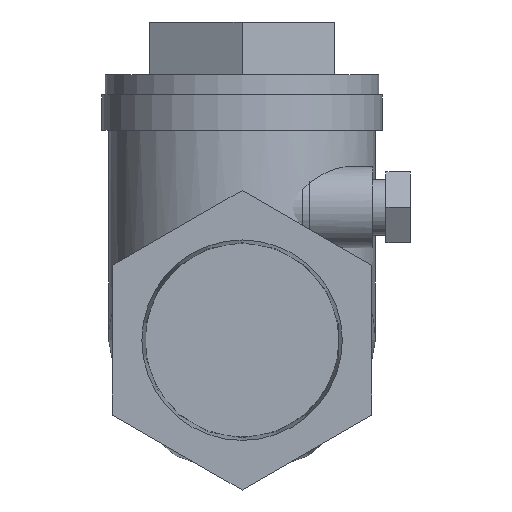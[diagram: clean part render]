
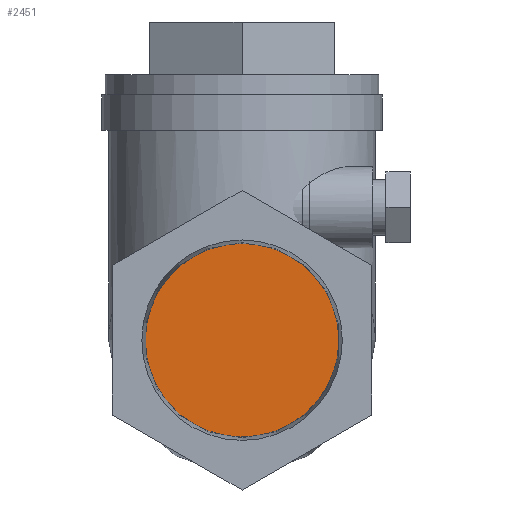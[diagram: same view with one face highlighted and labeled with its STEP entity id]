
A CAD part, left-side view. The second image highlights one B-rep face of the part: STEP entity #2451.
In plain terms, the highlighted planar face has unit normal (-1, 0, 0).
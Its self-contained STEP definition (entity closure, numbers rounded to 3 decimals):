
#2451 = ADVANCED_FACE('',(#2452),#2465,.T.);
#2452 = FACE_BOUND('',#2453,.T.);
#2453 = EDGE_LOOP('',(#2454));
#2454 = ORIENTED_EDGE('',*,*,#2455,.F.);
#2455 = EDGE_CURVE('',#2456,#2456,#2458,.T.);
#2456 = VERTEX_POINT('',#2457);
#2457 = CARTESIAN_POINT('',(9.998,-3.928,
    17.454));
#2458 = SURFACE_CURVE('',#2459,(#2464,#2480),.PCURVE_S1.);
#2459 = CIRCLE('',#2460,12.127);
#2460 = AXIS2_PLACEMENT_3D('',#2461,#2462,#2463);
#2461 = CARTESIAN_POINT('',(9.998,-3.928,
    5.327));
#2462 = DIRECTION('',(1.,0.,-0.));
#2463 = DIRECTION('',(0.,0.,1.));
#2464 = PCURVE('',#2465,#2470);
#2465 = PLANE('',#2466);
#2466 = AXIS2_PLACEMENT_3D('',#2467,#2468,#2469);
#2467 = CARTESIAN_POINT('',(9.998,-3.928,
    11.39));
#2468 = DIRECTION('',(-1.,-0.,-0.));
#2469 = DIRECTION('',(-0.,-0.,1.));
#2470 = DEFINITIONAL_REPRESENTATION('',(#2471),#2479);
#2471 = ( BOUNDED_CURVE() B_SPLINE_CURVE(2,(#2472,#2473,#2474,#2475,
#2476,#2477,#2478),.UNSPECIFIED.,.T.,.F.) B_SPLINE_CURVE_WITH_KNOTS((1,2
    ,2,2,2,1),(-2.094,0.,2.094,4.189,
6.283,8.378),.UNSPECIFIED.) CURVE() 
GEOMETRIC_REPRESENTATION_ITEM() RATIONAL_B_SPLINE_CURVE((1.,0.5,1.,0.5,
1.,0.5,1.)) REPRESENTATION_ITEM('') );
#2472 = CARTESIAN_POINT('',(6.064,0.));
#2473 = CARTESIAN_POINT('',(6.064,-21.005));
#2474 = CARTESIAN_POINT('',(-12.127,-10.503));
#2475 = CARTESIAN_POINT('',(-30.319,0.));
#2476 = CARTESIAN_POINT('',(-12.127,10.503));
#2477 = CARTESIAN_POINT('',(6.064,21.005));
#2478 = CARTESIAN_POINT('',(6.064,0.));
#2479 = ( GEOMETRIC_REPRESENTATION_CONTEXT(2) 
PARAMETRIC_REPRESENTATION_CONTEXT() REPRESENTATION_CONTEXT('2D SPACE',''
  ) );
#2480 = PCURVE('',#2481,#2486);
#2481 = CONICAL_SURFACE('',#2482,12.344,0.031);
#2482 = AXIS2_PLACEMENT_3D('',#2483,#2484,#2485);
#2483 = CARTESIAN_POINT('',(803.616,-3.928,
    5.327));
#2484 = DIRECTION('',(1.,0.,0.));
#2485 = DIRECTION('',(0.,0.,-1.));
#2486 = DEFINITIONAL_REPRESENTATION('',(#2487),#2491);
#2487 = LINE('',#2488,#2489);
#2488 = CARTESIAN_POINT('',(0.,-793.619));
#2489 = VECTOR('',#2490,1.);
#2490 = DIRECTION('',(1.,0.));
#2491 = ( GEOMETRIC_REPRESENTATION_CONTEXT(2) 
PARAMETRIC_REPRESENTATION_CONTEXT() REPRESENTATION_CONTEXT('2D SPACE',''
  ) );
